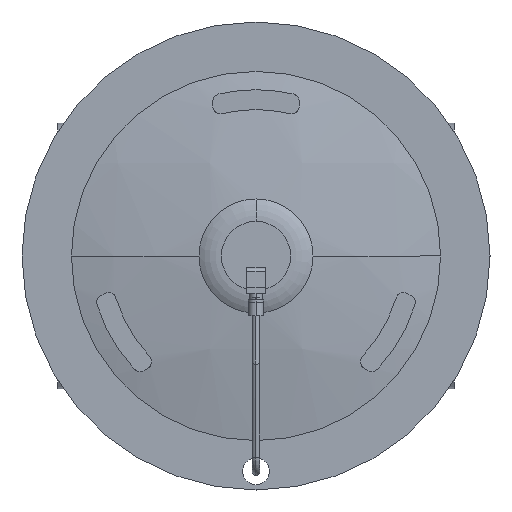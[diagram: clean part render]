
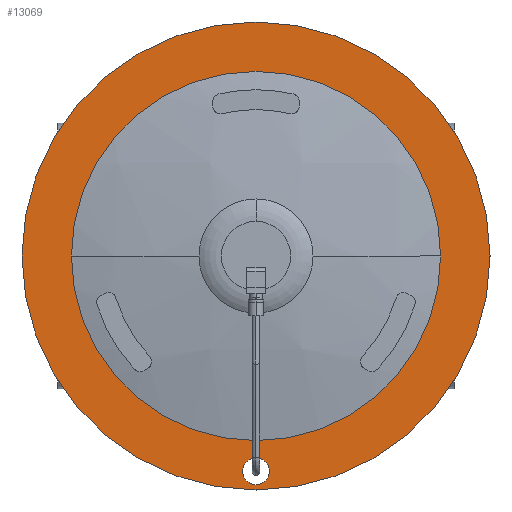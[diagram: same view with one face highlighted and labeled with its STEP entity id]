
A CAD part, front view. The second image highlights one B-rep face of the part: STEP entity #13069.
In plain terms, the highlighted planar face has unit normal (0, -1, 0).
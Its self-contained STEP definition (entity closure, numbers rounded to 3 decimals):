
#441 = AXIS2_PLACEMENT_3D ( 'NONE', #11148, #2570, #10096 ) ;
#615 = ORIENTED_EDGE ( 'NONE', *, *, #813, .F. ) ;
#686 = VERTEX_POINT ( 'NONE', #6453 ) ;
#813 = EDGE_CURVE ( 'NONE', #686, #4571, #10179, .T. ) ;
#888 = CIRCLE ( 'NONE', #441, 10. ) ;
#1038 = ORIENTED_EDGE ( 'NONE', *, *, #4075, .F. ) ;
#1131 = AXIS2_PLACEMENT_3D ( 'NONE', #2467, #3603, #12022 ) ;
#1140 = DIRECTION ( 'NONE',  ( 0., 1., 0. ) ) ;
#1382 = ORIENTED_EDGE ( 'NONE', *, *, #3506, .F. ) ;
#1709 = AXIS2_PLACEMENT_3D ( 'NONE', #12852, #7589, #13759 ) ;
#1983 = VERTEX_POINT ( 'NONE', #6455 ) ;
#2086 = DIRECTION ( 'NONE',  ( 0., 0., -1. ) ) ;
#2158 = AXIS2_PLACEMENT_3D ( 'NONE', #9490, #1140, #3311 ) ;
#2467 = CARTESIAN_POINT ( 'NONE',  ( 0., -218.4, -162. ) ) ;
#2570 = DIRECTION ( 'NONE',  ( 0., -1., 0. ) ) ;
#3029 = FACE_BOUND ( 'NONE', #12534, .T. ) ;
#3311 = DIRECTION ( 'NONE',  ( 0., 0., 1. ) ) ;
#3425 = EDGE_CURVE ( 'NONE', #10292, #3866, #12554, .T. ) ;
#3506 = EDGE_CURVE ( 'NONE', #1983, #9206, #888, .T. ) ;
#3571 = CARTESIAN_POINT ( 'NONE',  ( 0., -218.4, 176. ) ) ;
#3603 = DIRECTION ( 'NONE',  ( 0., -1., 0. ) ) ;
#3640 = DIRECTION ( 'NONE',  ( 0., 0., 1. ) ) ;
#3700 = CARTESIAN_POINT ( 'NONE',  ( 0., -218.4, 0. ) ) ;
#3866 = VERTEX_POINT ( 'NONE', #8248 ) ;
#4075 = EDGE_CURVE ( 'NONE', #9206, #1983, #9418, .T. ) ;
#4076 = FACE_BOUND ( 'NONE', #9833, .T. ) ;
#4454 = AXIS2_PLACEMENT_3D ( 'NONE', #3700, #4530, #7984 ) ;
#4530 = DIRECTION ( 'NONE',  ( 0., -1., 0. ) ) ;
#4571 = VERTEX_POINT ( 'NONE', #3571 ) ;
#4685 = CARTESIAN_POINT ( 'NONE',  ( 0., -218.4, -152. ) ) ;
#4895 = DIRECTION ( 'NONE',  ( 0., 1., 0. ) ) ;
#5236 = AXIS2_PLACEMENT_3D ( 'NONE', #10164, #4895, #3640 ) ;
#6452 = ORIENTED_EDGE ( 'NONE', *, *, #11896, .F. ) ;
#6453 = CARTESIAN_POINT ( 'NONE',  ( 0., -218.4, -176. ) ) ;
#6455 = CARTESIAN_POINT ( 'NONE',  ( 0., -218.4, -172. ) ) ;
#7193 = EDGE_LOOP ( 'NONE', ( #6452, #615 ) ) ;
#7285 = DIRECTION ( 'NONE',  ( 0., -1., 0. ) ) ;
#7457 = CARTESIAN_POINT ( 'NONE',  ( -138.834, -218.4, 0. ) ) ;
#7589 = DIRECTION ( 'NONE',  ( 0., -1., 0. ) ) ;
#7984 = DIRECTION ( 'NONE',  ( 0., 0., -1. ) ) ;
#8212 = CIRCLE ( 'NONE', #2158, 176. ) ;
#8248 = CARTESIAN_POINT ( 'NONE',  ( 138.834, -218.4, 0. ) ) ;
#9084 = ORIENTED_EDGE ( 'NONE', *, *, #3425, .F. ) ;
#9151 = FACE_OUTER_BOUND ( 'NONE', #7193, .T. ) ;
#9206 = VERTEX_POINT ( 'NONE', #4685 ) ;
#9418 = CIRCLE ( 'NONE', #1131, 10. ) ;
#9490 = CARTESIAN_POINT ( 'NONE',  ( 0., -218.4, 0. ) ) ;
#9506 = EDGE_CURVE ( 'NONE', #3866, #10292, #12296, .T. ) ;
#9833 = EDGE_LOOP ( 'NONE', ( #1038, #1382 ) ) ;
#10096 = DIRECTION ( 'NONE',  ( 0., 0., -1. ) ) ;
#10164 = CARTESIAN_POINT ( 'NONE',  ( 0., -218.4, 0. ) ) ;
#10179 = CIRCLE ( 'NONE', #5236, 176. ) ;
#10222 = ORIENTED_EDGE ( 'NONE', *, *, #9506, .F. ) ;
#10292 = VERTEX_POINT ( 'NONE', #7457 ) ;
#10669 = PLANE ( 'NONE',  #1709 ) ;
#11148 = CARTESIAN_POINT ( 'NONE',  ( 0., -218.4, -162. ) ) ;
#11770 = CARTESIAN_POINT ( 'NONE',  ( 0., -218.4, 0. ) ) ;
#11896 = EDGE_CURVE ( 'NONE', #4571, #686, #8212, .T. ) ;
#12022 = DIRECTION ( 'NONE',  ( 0., 0., -1. ) ) ;
#12296 = CIRCLE ( 'NONE', #13854, 138.834 ) ;
#12534 = EDGE_LOOP ( 'NONE', ( #9084, #10222 ) ) ;
#12554 = CIRCLE ( 'NONE', #4454, 138.834 ) ;
#12852 = CARTESIAN_POINT ( 'NONE',  ( -176., -218.4, 0. ) ) ;
#13069 = ADVANCED_FACE ( 'NONE', ( #4076, #3029, #9151 ), #10669, .T. ) ;
#13759 = DIRECTION ( 'NONE',  ( 0., 0., -1. ) ) ;
#13854 = AXIS2_PLACEMENT_3D ( 'NONE', #11770, #7285, #2086 ) ;
